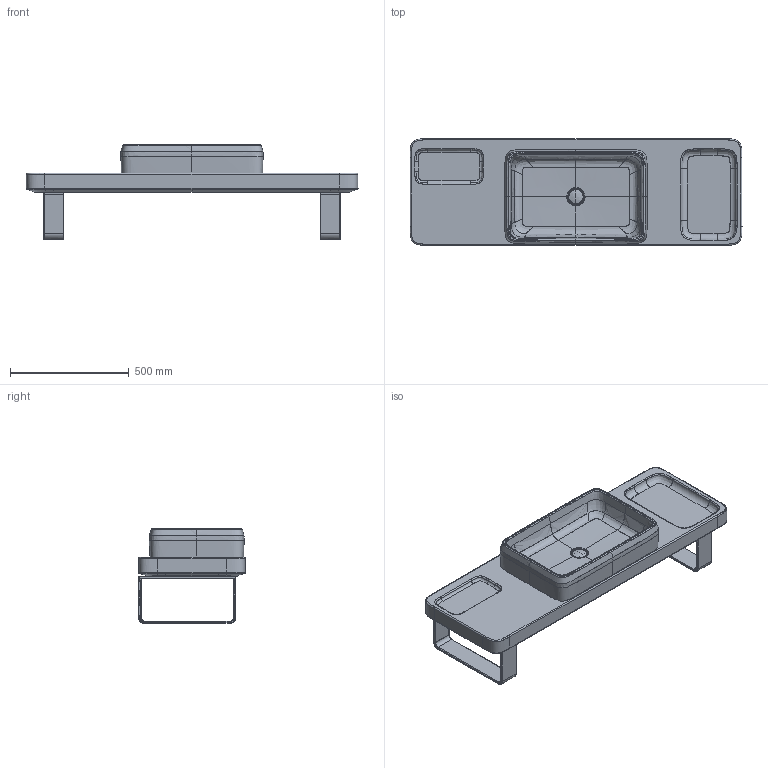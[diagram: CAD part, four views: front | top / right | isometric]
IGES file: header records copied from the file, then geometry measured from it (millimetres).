
Global section: file name: d:\users\matthias.isele\Desktop\Keramik\Qatego\D4800700_D4800800_D4800900\3D\D4800700_D4800800_D4800900.igs; native system: Rhinoceros ( Sep 13 2016 ); preprocessor: Trout Lake IGES 012 Sep 13 2016; date: 230314.092543; units: millimetre
Bounding box: 1400 x 450 x 400.16 mm (x, y, z)
Surface area: 2865955.3 mm2 (no closed solid volume)
Topology: 0 solids, 0 shells, 586 faces, 4904 edges, 4894 vertices
Faces by surface type: bspline 586
